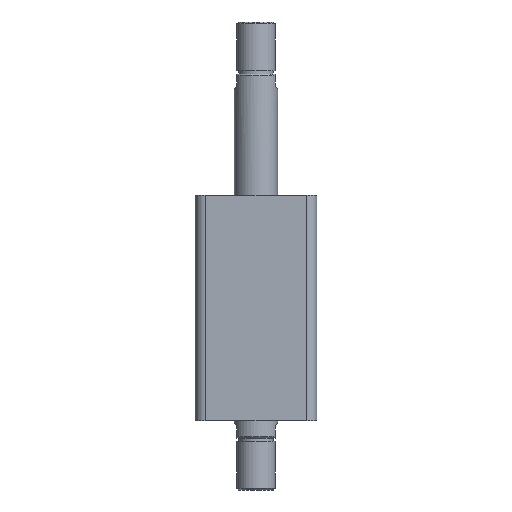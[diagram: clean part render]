
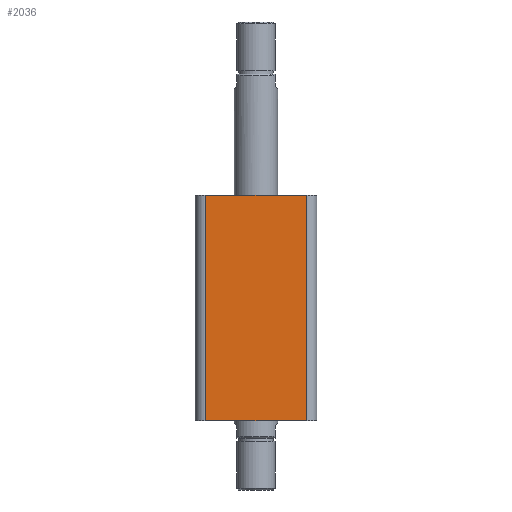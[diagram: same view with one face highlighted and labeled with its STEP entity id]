
A CAD part, front view. The second image highlights one B-rep face of the part: STEP entity #2036.
In plain terms, the highlighted planar face has unit normal (0, -1, 0).
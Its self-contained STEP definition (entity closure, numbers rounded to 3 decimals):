
#338 = DIRECTION ( 'NONE',  ( 1., 0., 0. ) ) ;
#339 = CARTESIAN_POINT ( 'NONE',  ( -35., -35., 130. ) ) ;
#416 = CARTESIAN_POINT ( 'NONE',  ( -35., -35., 0. ) ) ;
#422 = CARTESIAN_POINT ( 'NONE',  ( -29., -35., 130. ) ) ;
#423 = DIRECTION ( 'NONE',  ( 0., 0., -1. ) ) ;
#424 = DIRECTION ( 'NONE',  ( 1., 0., 0. ) ) ;
#425 = CARTESIAN_POINT ( 'NONE',  ( 29., -35., 130. ) ) ;
#426 = DIRECTION ( 'NONE',  ( 0., 0., 1. ) ) ;
#528 = LINE ( 'NONE', #416, #536 ) ;
#530 = LINE ( 'NONE', #422, #534 ) ;
#534 = VECTOR ( 'NONE', #423, 1000. ) ;
#535 = LINE ( 'NONE', #425, #538 ) ;
#536 = VECTOR ( 'NONE', #424, 1000. ) ;
#538 = VECTOR ( 'NONE', #426, 1000. ) ;
#898 = EDGE_CURVE ( 'NONE', #3237, #1285, #1509, .T. ) ;
#928 = EDGE_CURVE ( 'NONE', #3237, #1292, #530, .T. ) ;
#929 = EDGE_CURVE ( 'NONE', #1292, #1286, #528, .T. ) ;
#930 = EDGE_CURVE ( 'NONE', #1286, #1285, #535, .T. ) ;
#1285 = VERTEX_POINT ( 'NONE', #2519 ) ;
#1286 = VERTEX_POINT ( 'NONE', #2520 ) ;
#1292 = VERTEX_POINT ( 'NONE', #2526 ) ;
#1509 = LINE ( 'NONE', #339, #1511 ) ;
#1511 = VECTOR ( 'NONE', #338, 1000. ) ;
#2036 = ADVANCED_FACE ( 'NONE', ( #2939 ), #2675, .F. ) ;
#2325 = AXIS2_PLACEMENT_3D ( 'NONE', #2673, #2677, #2678 ) ;
#2519 = CARTESIAN_POINT ( 'NONE',  ( 29., -35., 130. ) ) ;
#2520 = CARTESIAN_POINT ( 'NONE',  ( 29., -35., 0. ) ) ;
#2526 = CARTESIAN_POINT ( 'NONE',  ( -29., -35., 0. ) ) ;
#2673 = CARTESIAN_POINT ( 'NONE',  ( -35., -35., 130. ) ) ;
#2675 = PLANE ( 'NONE',  #2325 ) ;
#2677 = DIRECTION ( 'NONE',  ( 0., 1., 0. ) ) ;
#2678 = DIRECTION ( 'NONE',  ( 0., 0., 1. ) ) ;
#2782 = CARTESIAN_POINT ( 'NONE',  ( -29., -35., 130. ) ) ;
#2939 = FACE_OUTER_BOUND ( 'NONE', #3269, .T. ) ;
#3237 = VERTEX_POINT ( 'NONE', #2782 ) ;
#3269 = EDGE_LOOP ( 'NONE', ( #3317, #3318, #3319, #3320 ) ) ;
#3317 = ORIENTED_EDGE ( 'NONE', *, *, #898, .F. ) ;
#3318 = ORIENTED_EDGE ( 'NONE', *, *, #928, .T. ) ;
#3319 = ORIENTED_EDGE ( 'NONE', *, *, #929, .T. ) ;
#3320 = ORIENTED_EDGE ( 'NONE', *, *, #930, .T. ) ;
